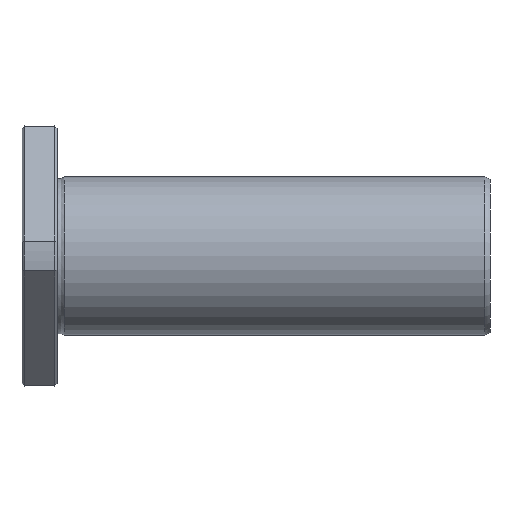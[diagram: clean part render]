
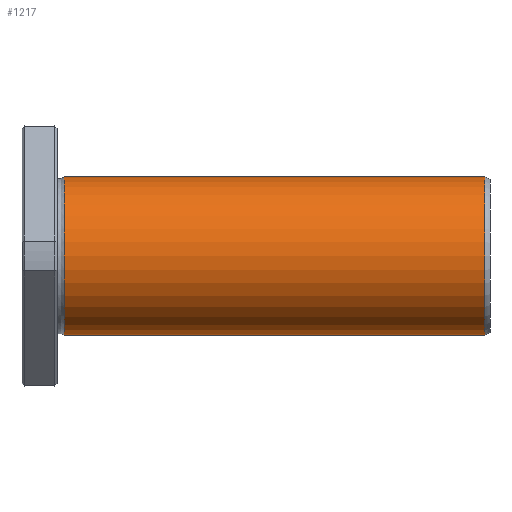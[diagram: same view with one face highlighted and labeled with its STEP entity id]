
A CAD part, front view. The second image highlights one B-rep face of the part: STEP entity #1217.
In plain terms, the highlighted cylindrical face has radius 22.5 mm (diameter 45 mm), a full revolution.
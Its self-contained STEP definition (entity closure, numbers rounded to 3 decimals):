
#1183=CARTESIAN_POINT('',(131.502,0.0,22.5));
#1184=VERTEX_POINT('',#1183);
#1185=CARTESIAN_POINT('',(131.502,0.0,0.0));
#1186=DIRECTION('',(-1.0,0.0,0.0));
#1187=DIRECTION('',(0.0,0.0,1.0));
#1188=AXIS2_PLACEMENT_3D('',#1185,#1186,#1187);
#1189=CIRCLE('',#1188,22.5);
#1190=EDGE_CURVE('',#1184,#1184,#1189,.T.);
#1198=CARTESIAN_POINT('',(71.762,0.0,0.0));
#1199=DIRECTION('',(-1.0,0.0,0.0));
#1200=DIRECTION('',(0.0,0.0,1.0));
#1201=AXIS2_PLACEMENT_3D('',#1198,#1199,#1200);
#1202=CYLINDRICAL_SURFACE('',#1201,22.5);
#1203=CARTESIAN_POINT('',(12.023,0.0,22.5));
#1204=VERTEX_POINT('',#1203);
#1205=CARTESIAN_POINT('',(12.023,0.0,0.0));
#1206=DIRECTION('',(-1.0,0.0,0.0));
#1207=DIRECTION('',(0.0,0.0,1.0));
#1208=AXIS2_PLACEMENT_3D('',#1205,#1206,#1207);
#1209=CIRCLE('',#1208,22.5);
#1210=EDGE_CURVE('',#1204,#1204,#1209,.T.);
#1211=ORIENTED_EDGE('',*,*,#1210,.F.);
#1212=EDGE_LOOP('',(#1211));
#1213=FACE_OUTER_BOUND('',#1212,.T.);
#1214=ORIENTED_EDGE('',*,*,#1190,.T.);
#1215=EDGE_LOOP('',(#1214));
#1216=FACE_BOUND('',#1215,.T.);
#1217=ADVANCED_FACE('',(#1213,#1216),#1202,.T.);
